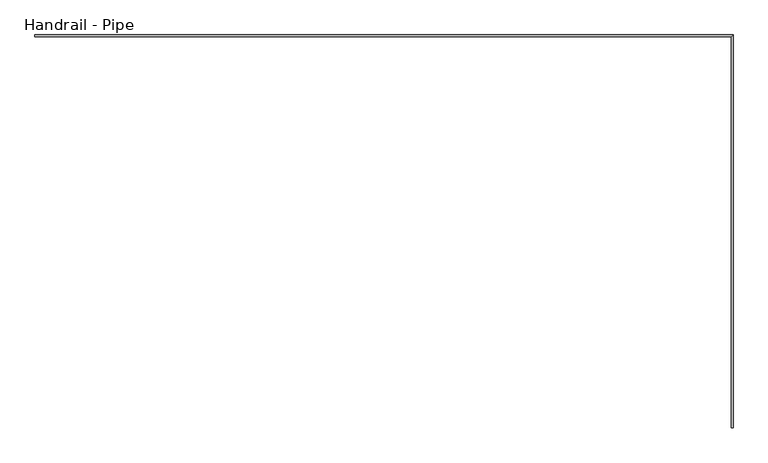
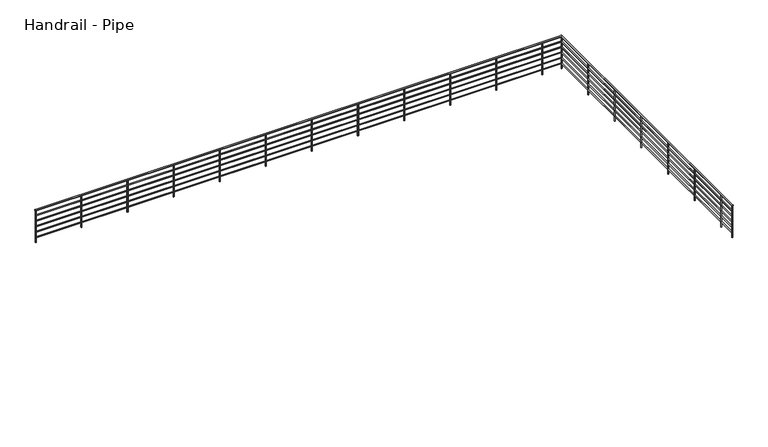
"""IFC4 building model written with IfcOpenShell, lengths in millimetres: railing geometry, Handrail - Pipe."""

from ifc_helpers import new_model, si_unit, point, frame, frame_2d, origin, place, context, project, spatial, circle_curve, ellipse_curve, trimmed, segment, composite_curve, outline, extrude, source, transform, mapped, element, save
from ifc_brep_helpers import plane_surface, cylinder_surface, advanced_brep


def handrail_pipe_d2b3d8b8(model_context):
    return source(origin(), model_context, "Body", "SolidModel", [
        advanced_brep(
        [(-11622.0589563, 11963.8816867, 10039.35), (-11622.0589563, 11925.7816867, 10039.35), (2316.1910437, 4121.6316867, 10039.35), (2278.0910437, 4121.6316867, 10039.35), (2316.1910437, 11963.8816867, 10039.35), (2278.0910437, 11925.7816867, 10039.35)],
        [
            (0, 1, circle_curve(frame((-11622.0589563, 11944.8316867, 10039.35), z_axis=(-1.0, 0.0, 0.0), x_axis=(0.0, -1.0, 0.0)), 19.05)),
            (1, 0, circle_curve(frame((-11622.0589563, 11944.8316867, 10039.35), z_axis=(-1.0, 0.0, 0.0), x_axis=(0.0, -1.0, 0.0)), 19.05)),
            (2, 3, circle_curve(frame((2297.1410437, 4121.6316867, 10039.35), z_axis=(0.0, -1.0, 0.0), x_axis=(-1.0, 0.0, 0.0)), 19.05)),
            (3, 2, circle_curve(frame((2297.1410437, 4121.6316867, 10039.35), z_axis=(0.0, -1.0, 0.0), x_axis=(-1.0, 0.0, 0.0)), 19.05)),
            (0, 4),
            (4, 5, ellipse_curve(frame((2297.1410437, 11944.8316867, 10039.35), z_axis=(-0.7071067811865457, 0.7071067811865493, 0.0), x_axis=(-0.7071067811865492, -0.7071067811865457, 0.0)), 26.9407684, 19.05)),
            (5, 1),
            (5, 4, ellipse_curve(frame((2297.1410437, 11944.8316867, 10039.35), z_axis=(-0.7071067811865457, 0.7071067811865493, 0.0), x_axis=(-0.7071067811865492, -0.7071067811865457, 0.0)), 26.9407684, 19.05)),
            (4, 2),
            (3, 5),
        ],
        [
            plane_surface(frame((-11622.0589563, 11944.8316867, 10058.4), z_axis=(-1.0, 0.0, 0.0), x_axis=(0.0, 1.0, 0.0))),
            plane_surface(frame((2297.1410437, 4121.6316867, 10058.4), z_axis=(0.0, -1.0, 0.0), x_axis=(0.0, 0.0, -1.0))),
            cylinder_surface(frame((-11622.0589563, 11944.8316867, 10039.35), z_axis=(-1.0, 0.0, 0.0), x_axis=(0.0, -1.0, 0.0)), 19.05),
            cylinder_surface(frame((2297.1410437, 11944.8316867, 10039.35), z_axis=(0.0, 1.0, 0.0), x_axis=(-1.0, 0.0, 0.0)), 19.05),
        ],
        [
            (0, [[1, 2]]),
            (1, [[3, 4]]),
            (2, [[-1, 5, 6, 7]]),
            (2, [[-2, -7, 8, -5]]),
            (3, [[-6, 9, -4, 10]]),
            (3, [[-8, -10, -3, -9]]),
        ],
    ),
        advanced_brep(
        [(-11622.0589563, 11957.5316867, 9893.3), (-11622.0589563, 11932.1316867, 9893.3), (2309.8410437, 11957.5316867, 9893.3), (2284.4410437, 11932.1316867, 9893.3), (2309.8410437, 4121.6316867, 9893.3), (2284.4410437, 4121.6316867, 9893.3)],
        [
            (0, 1, circle_curve(frame((-11622.0589563, 11944.8316867, 9893.3), z_axis=(-1.0, 0.0, 0.0), x_axis=(0.0, -1.0, 0.0)), 12.7)),
            (1, 0, circle_curve(frame((-11622.0589563, 11944.8316867, 9893.3), z_axis=(-1.0, 0.0, 0.0), x_axis=(0.0, -1.0, 0.0)), 12.7)),
            (0, 2),
            (2, 3, ellipse_curve(frame((2297.1410437, 11944.8316867, 9893.3), z_axis=(-0.7071067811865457, 0.7071067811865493, 0.0), x_axis=(-0.7071067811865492, -0.7071067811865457, 0.0)), 17.9605122, 12.7)),
            (3, 1),
            (3, 2, ellipse_curve(frame((2297.1410437, 11944.8316867, 9893.3), z_axis=(-0.7071067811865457, 0.7071067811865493, 0.0), x_axis=(-0.7071067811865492, -0.7071067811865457, 0.0)), 17.9605122, 12.7)),
            (4, 5, circle_curve(frame((2297.1410437, 4121.6316867, 9893.3), z_axis=(0.0, -1.0, 0.0), x_axis=(-1.0, 0.0, 0.0)), 12.7)),
            (5, 4, circle_curve(frame((2297.1410437, 4121.6316867, 9893.3), z_axis=(0.0, -1.0, 0.0), x_axis=(-1.0, 0.0, 0.0)), 12.7)),
            (2, 4),
            (5, 3),
        ],
        [
            plane_surface(frame((-11622.0589563, 11944.8316867, 9906.0), z_axis=(-1.0, 0.0, 0.0), x_axis=(0.0, 1.0, 0.0))),
            cylinder_surface(frame((-11622.0589563, 11944.8316867, 9893.3), z_axis=(-1.0, 0.0, 0.0), x_axis=(0.0, -1.0, 0.0)), 12.7),
            plane_surface(frame((2297.1410437, 4121.6316867, 9906.0), z_axis=(0.0, -1.0, 0.0), x_axis=(0.0, 0.0, -1.0))),
            cylinder_surface(frame((2297.1410437, 11944.8316867, 9893.3), z_axis=(0.0, 1.0, 0.0), x_axis=(-1.0, 0.0, 0.0)), 12.7),
        ],
        [
            (0, [[1, 2]]),
            (1, [[-1, 3, 4, 5]]),
            (1, [[-2, -5, 6, -3]]),
            (2, [[7, 8]]),
            (3, [[-4, 9, -8, 10]]),
            (3, [[-6, -10, -7, -9]]),
        ],
    ),
        advanced_brep(
        [(-11622.0589563, 11957.5316867, 9740.9), (-11622.0589563, 11932.1316867, 9740.9), (2309.8410437, 11957.5316867, 9740.9), (2284.4410437, 11932.1316867, 9740.9), (2309.8410437, 4121.6316867, 9740.9), (2284.4410437, 4121.6316867, 9740.9)],
        [
            (0, 1, circle_curve(frame((-11622.0589563, 11944.8316867, 9740.9), z_axis=(-1.0, 0.0, 0.0), x_axis=(0.0, -1.0, 0.0)), 12.7)),
            (1, 0, circle_curve(frame((-11622.0589563, 11944.8316867, 9740.9), z_axis=(-1.0, 0.0, 0.0), x_axis=(0.0, -1.0, 0.0)), 12.7)),
            (0, 2),
            (2, 3, ellipse_curve(frame((2297.1410437, 11944.8316867, 9740.9), z_axis=(-0.7071067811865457, 0.7071067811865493, 0.0), x_axis=(-0.7071067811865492, -0.7071067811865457, 0.0)), 17.9605122, 12.7)),
            (3, 1),
            (3, 2, ellipse_curve(frame((2297.1410437, 11944.8316867, 9740.9), z_axis=(-0.7071067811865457, 0.7071067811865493, 0.0), x_axis=(-0.7071067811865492, -0.7071067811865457, 0.0)), 17.9605122, 12.7)),
            (4, 5, circle_curve(frame((2297.1410437, 4121.6316867, 9740.9), z_axis=(0.0, -1.0, 0.0), x_axis=(-1.0, 0.0, 0.0)), 12.7)),
            (5, 4, circle_curve(frame((2297.1410437, 4121.6316867, 9740.9), z_axis=(0.0, -1.0, 0.0), x_axis=(-1.0, 0.0, 0.0)), 12.7)),
            (2, 4),
            (5, 3),
        ],
        [
            plane_surface(frame((-11622.0589563, 11944.8316867, 9753.6), z_axis=(-1.0, 0.0, 0.0), x_axis=(0.0, 1.0, 0.0))),
            cylinder_surface(frame((-11622.0589563, 11944.8316867, 9740.9), z_axis=(-1.0, 0.0, 0.0), x_axis=(0.0, -1.0, 0.0)), 12.7),
            plane_surface(frame((2297.1410437, 4121.6316867, 9753.6), z_axis=(0.0, -1.0, 0.0), x_axis=(0.0, 0.0, -1.0))),
            cylinder_surface(frame((2297.1410437, 11944.8316867, 9740.9), z_axis=(0.0, 1.0, 0.0), x_axis=(-1.0, 0.0, 0.0)), 12.7),
        ],
        [
            (0, [[1, 2]]),
            (1, [[-1, 3, 4, 5]]),
            (1, [[-2, -5, 6, -3]]),
            (2, [[7, 8]]),
            (3, [[-4, 9, -8, 10]]),
            (3, [[-6, -10, -7, -9]]),
        ],
    ),
        advanced_brep(
        [(-11622.0589563, 11957.5316867, 9588.5), (-11622.0589563, 11932.1316867, 9588.5), (2309.8410437, 11957.5316867, 9588.5), (2284.4410437, 11932.1316867, 9588.5), (2309.8410437, 4121.6316867, 9588.5), (2284.4410437, 4121.6316867, 9588.5)],
        [
            (0, 1, circle_curve(frame((-11622.0589563, 11944.8316867, 9588.5), z_axis=(-1.0, 0.0, 0.0), x_axis=(0.0, -1.0, 0.0)), 12.7)),
            (1, 0, circle_curve(frame((-11622.0589563, 11944.8316867, 9588.5), z_axis=(-1.0, 0.0, 0.0), x_axis=(0.0, -1.0, 0.0)), 12.7)),
            (0, 2),
            (2, 3, ellipse_curve(frame((2297.1410437, 11944.8316867, 9588.5), z_axis=(-0.7071067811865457, 0.7071067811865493, 0.0), x_axis=(-0.7071067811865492, -0.7071067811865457, 0.0)), 17.9605122, 12.7)),
            (3, 1),
            (3, 2, ellipse_curve(frame((2297.1410437, 11944.8316867, 9588.5), z_axis=(-0.7071067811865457, 0.7071067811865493, 0.0), x_axis=(-0.7071067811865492, -0.7071067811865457, 0.0)), 17.9605122, 12.7)),
            (4, 5, circle_curve(frame((2297.1410437, 4121.6316867, 9588.5), z_axis=(0.0, -1.0, 0.0), x_axis=(-1.0, 0.0, 0.0)), 12.7)),
            (5, 4, circle_curve(frame((2297.1410437, 4121.6316867, 9588.5), z_axis=(0.0, -1.0, 0.0), x_axis=(-1.0, 0.0, 0.0)), 12.7)),
            (2, 4),
            (5, 3),
        ],
        [
            plane_surface(frame((-11622.0589563, 11944.8316867, 9601.2), z_axis=(-1.0, 0.0, 0.0), x_axis=(0.0, 1.0, 0.0))),
            cylinder_surface(frame((-11622.0589563, 11944.8316867, 9588.5), z_axis=(-1.0, 0.0, 0.0), x_axis=(0.0, -1.0, 0.0)), 12.7),
            plane_surface(frame((2297.1410437, 4121.6316867, 9601.2), z_axis=(0.0, -1.0, 0.0), x_axis=(0.0, 0.0, -1.0))),
            cylinder_surface(frame((2297.1410437, 11944.8316867, 9588.5), z_axis=(0.0, 1.0, 0.0), x_axis=(-1.0, 0.0, 0.0)), 12.7),
        ],
        [
            (0, [[1, 2]]),
            (1, [[-1, 3, 4, 5]]),
            (1, [[-2, -5, 6, -3]]),
            (2, [[7, 8]]),
            (3, [[-4, 9, -8, 10]]),
            (3, [[-6, -10, -7, -9]]),
        ],
    ),
        advanced_brep(
        [(-11622.0589563, 11957.5316867, 9436.1), (-11622.0589563, 11932.1316867, 9436.1), (2309.8410437, 11957.5316867, 9436.1), (2284.4410437, 11932.1316867, 9436.1), (2309.8410437, 4121.6316867, 9436.1), (2284.4410437, 4121.6316867, 9436.1)],
        [
            (0, 1, circle_curve(frame((-11622.0589563, 11944.8316867, 9436.1), z_axis=(-1.0, 0.0, 0.0), x_axis=(0.0, -1.0, 0.0)), 12.7)),
            (1, 0, circle_curve(frame((-11622.0589563, 11944.8316867, 9436.1), z_axis=(-1.0, 0.0, 0.0), x_axis=(0.0, -1.0, 0.0)), 12.7)),
            (0, 2),
            (2, 3, ellipse_curve(frame((2297.1410437, 11944.8316867, 9436.1), z_axis=(-0.7071067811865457, 0.7071067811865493, 0.0), x_axis=(-0.7071067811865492, -0.7071067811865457, 0.0)), 17.9605122, 12.7)),
            (3, 1),
            (3, 2, ellipse_curve(frame((2297.1410437, 11944.8316867, 9436.1), z_axis=(-0.7071067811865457, 0.7071067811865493, 0.0), x_axis=(-0.7071067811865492, -0.7071067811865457, 0.0)), 17.9605122, 12.7)),
            (4, 5, circle_curve(frame((2297.1410437, 4121.6316867, 9436.1), z_axis=(0.0, -1.0, 0.0), x_axis=(-1.0, 0.0, 0.0)), 12.7)),
            (5, 4, circle_curve(frame((2297.1410437, 4121.6316867, 9436.1), z_axis=(0.0, -1.0, 0.0), x_axis=(-1.0, 0.0, 0.0)), 12.7)),
            (2, 4),
            (5, 3),
        ],
        [
            plane_surface(frame((-11622.0589563, 11944.8316867, 9448.8), z_axis=(-1.0, 0.0, 0.0), x_axis=(0.0, 1.0, 0.0))),
            cylinder_surface(frame((-11622.0589563, 11944.8316867, 9436.1), z_axis=(-1.0, 0.0, 0.0), x_axis=(0.0, -1.0, 0.0)), 12.7),
            plane_surface(frame((2297.1410437, 4121.6316867, 9448.8), z_axis=(0.0, -1.0, 0.0), x_axis=(0.0, 0.0, -1.0))),
            cylinder_surface(frame((2297.1410437, 11944.8316867, 9436.1), z_axis=(0.0, 1.0, 0.0), x_axis=(-1.0, 0.0, 0.0)), 12.7),
        ],
        [
            (0, [[1, 2]]),
            (1, [[-1, 3, 4, 5]]),
            (1, [[-2, -5, 6, -3]]),
            (2, [[7, 8]]),
            (3, [[-4, 9, -8, 10]]),
            (3, [[-6, -10, -7, -9]]),
        ],
    ),
        advanced_brep(
        [(-11622.0589563, 11957.5316867, 9283.7), (-11622.0589563, 11932.1316867, 9283.7), (2309.8410437, 11957.5316867, 9283.7), (2284.4410437, 11932.1316867, 9283.7), (2309.8410437, 4121.6316867, 9283.7), (2284.4410437, 4121.6316867, 9283.7)],
        [
            (0, 1, circle_curve(frame((-11622.0589563, 11944.8316867, 9283.7), z_axis=(-1.0, 0.0, 0.0), x_axis=(0.0, -1.0, 0.0)), 12.7)),
            (1, 0, circle_curve(frame((-11622.0589563, 11944.8316867, 9283.7), z_axis=(-1.0, 0.0, 0.0), x_axis=(0.0, -1.0, 0.0)), 12.7)),
            (0, 2),
            (2, 3, ellipse_curve(frame((2297.1410437, 11944.8316867, 9283.7), z_axis=(-0.7071067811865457, 0.7071067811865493, 0.0), x_axis=(-0.7071067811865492, -0.7071067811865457, 0.0)), 17.9605122, 12.7)),
            (3, 1),
            (3, 2, ellipse_curve(frame((2297.1410437, 11944.8316867, 9283.7), z_axis=(-0.7071067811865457, 0.7071067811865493, 0.0), x_axis=(-0.7071067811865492, -0.7071067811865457, 0.0)), 17.9605122, 12.7)),
            (4, 5, circle_curve(frame((2297.1410437, 4121.6316867, 9283.7), z_axis=(0.0, -1.0, 0.0), x_axis=(-1.0, 0.0, 0.0)), 12.7)),
            (5, 4, circle_curve(frame((2297.1410437, 4121.6316867, 9283.7), z_axis=(0.0, -1.0, 0.0), x_axis=(-1.0, 0.0, 0.0)), 12.7)),
            (2, 4),
            (5, 3),
        ],
        [
            plane_surface(frame((-11622.0589563, 11944.8316867, 9296.4), z_axis=(-1.0, 0.0, 0.0), x_axis=(0.0, 1.0, 0.0))),
            cylinder_surface(frame((-11622.0589563, 11944.8316867, 9283.7), z_axis=(-1.0, 0.0, 0.0), x_axis=(0.0, -1.0, 0.0)), 12.7),
            plane_surface(frame((2297.1410437, 4121.6316867, 9296.4), z_axis=(0.0, -1.0, 0.0), x_axis=(0.0, 0.0, -1.0))),
            cylinder_surface(frame((2297.1410437, 11944.8316867, 9283.7), z_axis=(0.0, 1.0, 0.0), x_axis=(-1.0, 0.0, 0.0)), 12.7),
        ],
        [
            (0, [[1, 2]]),
            (1, [[-1, 3, 4, 5]]),
            (1, [[-2, -5, 6, -3]]),
            (2, [[7, 8]]),
            (3, [[-4, 9, -8, 10]]),
            (3, [[-6, -10, -7, -9]]),
        ],
    ),
        extrude(outline(composite_curve([segment(trimmed(circle_curve(frame_2d((2297.1410437, 4629.6316867)), 12.7), [point((2309.8410437, 4629.6316867))], [point((2284.4410437, 4629.6316867))], False, "CARTESIAN"), True, "CONTINUOUS"), segment(trimmed(circle_curve(frame_2d((2297.1410437, 4629.6316867)), 12.7), [point((2284.4410437, 4629.6316867))], [point((2309.8410437, 4629.6316867))], False, "CARTESIAN"), True, "CONTINUOUS")], self_intersect=False)), frame((0.0, 0.0, 9144.0), z_axis=(0.0, 0.0, 1.0), x_axis=(1.0, 0.0, 0.0)), (0.0, 0.0, 1.0), 876.3),
        extrude(outline(composite_curve([segment(trimmed(circle_curve(frame_2d((2297.1410437, 5848.8316867)), 12.7), [point((2309.8410437, 5848.8316867))], [point((2284.4410437, 5848.8316867))], False, "CARTESIAN"), True, "CONTINUOUS"), segment(trimmed(circle_curve(frame_2d((2297.1410437, 5848.8316867)), 12.7), [point((2284.4410437, 5848.8316867))], [point((2309.8410437, 5848.8316867))], False, "CARTESIAN"), True, "CONTINUOUS")], self_intersect=False)), frame((0.0, 0.0, 9144.0), z_axis=(0.0, 0.0, 1.0), x_axis=(1.0, 0.0, 0.0)), (0.0, 0.0, 1.0), 876.3),
        extrude(outline(composite_curve([segment(trimmed(circle_curve(frame_2d((2297.1410437, 7068.0316867)), 12.7), [point((2309.8410437, 7068.0316867))], [point((2284.4410437, 7068.0316867))], False, "CARTESIAN"), True, "CONTINUOUS"), segment(trimmed(circle_curve(frame_2d((2297.1410437, 7068.0316867)), 12.7), [point((2284.4410437, 7068.0316867))], [point((2309.8410437, 7068.0316867))], False, "CARTESIAN"), True, "CONTINUOUS")], self_intersect=False)), frame((0.0, 0.0, 9144.0), z_axis=(0.0, 0.0, 1.0), x_axis=(1.0, 0.0, 0.0)), (0.0, 0.0, 1.0), 876.3),
        extrude(outline(composite_curve([segment(trimmed(circle_curve(frame_2d((2297.1410437, 8287.2316867)), 12.7), [point((2309.8410437, 8287.2316867))], [point((2284.4410437, 8287.2316867))], False, "CARTESIAN"), True, "CONTINUOUS"), segment(trimmed(circle_curve(frame_2d((2297.1410437, 8287.2316867)), 12.7), [point((2284.4410437, 8287.2316867))], [point((2309.8410437, 8287.2316867))], False, "CARTESIAN"), True, "CONTINUOUS")], self_intersect=False)), frame((0.0, 0.0, 9144.0), z_axis=(0.0, 0.0, 1.0), x_axis=(1.0, 0.0, 0.0)), (0.0, 0.0, 1.0), 876.3),
        extrude(outline(composite_curve([segment(trimmed(circle_curve(frame_2d((2297.1410437, 9506.4316867)), 12.7), [point((2309.8410437, 9506.4316867))], [point((2284.4410437, 9506.4316867))], False, "CARTESIAN"), True, "CONTINUOUS"), segment(trimmed(circle_curve(frame_2d((2297.1410437, 9506.4316867)), 12.7), [point((2284.4410437, 9506.4316867))], [point((2309.8410437, 9506.4316867))], False, "CARTESIAN"), True, "CONTINUOUS")], self_intersect=False)), frame((0.0, 0.0, 9144.0), z_axis=(0.0, 0.0, 1.0), x_axis=(1.0, 0.0, 0.0)), (0.0, 0.0, 1.0), 876.3),
        extrude(outline(composite_curve([segment(trimmed(circle_curve(frame_2d((2297.1410437, 10725.6316867)), 12.7), [point((2309.8410437, 10725.6316867))], [point((2284.4410437, 10725.6316867))], False, "CARTESIAN"), True, "CONTINUOUS"), segment(trimmed(circle_curve(frame_2d((2297.1410437, 10725.6316867)), 12.7), [point((2284.4410437, 10725.6316867))], [point((2309.8410437, 10725.6316867))], False, "CARTESIAN"), True, "CONTINUOUS")], self_intersect=False)), frame((0.0, 0.0, 9144.0), z_axis=(0.0, 0.0, 1.0), x_axis=(1.0, 0.0, 0.0)), (0.0, 0.0, 1.0), 876.3),
        extrude(outline(composite_curve([segment(trimmed(circle_curve(frame_2d((1789.1410437, 11944.8316867)), 12.7), [point((1789.1410437, 11957.5316867))], [point((1789.1410437, 11932.1316867))], False, "CARTESIAN"), True, "CONTINUOUS"), segment(trimmed(circle_curve(frame_2d((1789.1410437, 11944.8316867)), 12.7), [point((1789.1410437, 11932.1316867))], [point((1789.1410437, 11957.5316867))], False, "CARTESIAN"), True, "CONTINUOUS")], self_intersect=False)), frame((0.0, 0.0, 9144.0), z_axis=(0.0, 0.0, 1.0), x_axis=(1.0, 0.0, 0.0)), (0.0, 0.0, 1.0), 876.3),
        extrude(outline(composite_curve([segment(trimmed(circle_curve(frame_2d((569.9410437, 11944.8316867)), 12.7), [point((569.9410437, 11957.5316867))], [point((569.9410437, 11932.1316867))], False, "CARTESIAN"), True, "CONTINUOUS"), segment(trimmed(circle_curve(frame_2d((569.9410437, 11944.8316867)), 12.7), [point((569.9410437, 11932.1316867))], [point((569.9410437, 11957.5316867))], False, "CARTESIAN"), True, "CONTINUOUS")], self_intersect=False)), frame((0.0, 0.0, 9144.0), z_axis=(0.0, 0.0, 1.0), x_axis=(1.0, 0.0, 0.0)), (0.0, 0.0, 1.0), 876.3),
        extrude(outline(composite_curve([segment(trimmed(circle_curve(frame_2d((-649.2589563, 11944.8316867)), 12.7), [point((-649.2589563, 11957.5316867))], [point((-649.2589563, 11932.1316867))], False, "CARTESIAN"), True, "CONTINUOUS"), segment(trimmed(circle_curve(frame_2d((-649.2589563, 11944.8316867)), 12.7), [point((-649.2589563, 11932.1316867))], [point((-649.2589563, 11957.5316867))], False, "CARTESIAN"), True, "CONTINUOUS")], self_intersect=False)), frame((0.0, 0.0, 9144.0), z_axis=(0.0, 0.0, 1.0), x_axis=(1.0, 0.0, 0.0)), (0.0, 0.0, 1.0), 876.3),
        extrude(outline(composite_curve([segment(trimmed(circle_curve(frame_2d((-1868.4589563, 11944.8316867)), 12.7), [point((-1868.4589563, 11957.5316867))], [point((-1868.4589563, 11932.1316867))], False, "CARTESIAN"), True, "CONTINUOUS"), segment(trimmed(circle_curve(frame_2d((-1868.4589563, 11944.8316867)), 12.7), [point((-1868.4589563, 11932.1316867))], [point((-1868.4589563, 11957.5316867))], False, "CARTESIAN"), True, "CONTINUOUS")], self_intersect=False)), frame((0.0, 0.0, 9144.0), z_axis=(0.0, 0.0, 1.0), x_axis=(1.0, 0.0, 0.0)), (0.0, 0.0, 1.0), 876.3),
        extrude(outline(composite_curve([segment(trimmed(circle_curve(frame_2d((-3087.6589563, 11944.8316867)), 12.7), [point((-3087.6589563, 11957.5316867))], [point((-3087.6589563, 11932.1316867))], False, "CARTESIAN"), True, "CONTINUOUS"), segment(trimmed(circle_curve(frame_2d((-3087.6589563, 11944.8316867)), 12.7), [point((-3087.6589563, 11932.1316867))], [point((-3087.6589563, 11957.5316867))], False, "CARTESIAN"), True, "CONTINUOUS")], self_intersect=False)), frame((0.0, 0.0, 9144.0), z_axis=(0.0, 0.0, 1.0), x_axis=(1.0, 0.0, 0.0)), (0.0, 0.0, 1.0), 876.3),
        extrude(outline(composite_curve([segment(trimmed(circle_curve(frame_2d((-4306.8589563, 11944.8316867)), 12.7), [point((-4306.8589563, 11957.5316867))], [point((-4306.8589563, 11932.1316867))], False, "CARTESIAN"), True, "CONTINUOUS"), segment(trimmed(circle_curve(frame_2d((-4306.8589563, 11944.8316867)), 12.7), [point((-4306.8589563, 11932.1316867))], [point((-4306.8589563, 11957.5316867))], False, "CARTESIAN"), True, "CONTINUOUS")], self_intersect=False)), frame((0.0, 0.0, 9144.0), z_axis=(0.0, 0.0, 1.0), x_axis=(1.0, 0.0, 0.0)), (0.0, 0.0, 1.0), 876.3),
        extrude(outline(composite_curve([segment(trimmed(circle_curve(frame_2d((-5526.0589563, 11944.8316867)), 12.7), [point((-5526.0589563, 11957.5316867))], [point((-5526.0589563, 11932.1316867))], False, "CARTESIAN"), True, "CONTINUOUS"), segment(trimmed(circle_curve(frame_2d((-5526.0589563, 11944.8316867)), 12.7), [point((-5526.0589563, 11932.1316867))], [point((-5526.0589563, 11957.5316867))], False, "CARTESIAN"), True, "CONTINUOUS")], self_intersect=False)), frame((0.0, 0.0, 9144.0), z_axis=(0.0, 0.0, 1.0), x_axis=(1.0, 0.0, 0.0)), (0.0, 0.0, 1.0), 876.3),
        extrude(outline(composite_curve([segment(trimmed(circle_curve(frame_2d((-6745.2589563, 11944.8316867)), 12.7), [point((-6745.2589563, 11957.5316867))], [point((-6745.2589563, 11932.1316867))], False, "CARTESIAN"), True, "CONTINUOUS"), segment(trimmed(circle_curve(frame_2d((-6745.2589563, 11944.8316867)), 12.7), [point((-6745.2589563, 11932.1316867))], [point((-6745.2589563, 11957.5316867))], False, "CARTESIAN"), True, "CONTINUOUS")], self_intersect=False)), frame((0.0, 0.0, 9144.0), z_axis=(0.0, 0.0, 1.0), x_axis=(1.0, 0.0, 0.0)), (0.0, 0.0, 1.0), 876.3),
        extrude(outline(composite_curve([segment(trimmed(circle_curve(frame_2d((-7964.4589563, 11944.8316867)), 12.7), [point((-7964.4589563, 11957.5316867))], [point((-7964.4589563, 11932.1316867))], False, "CARTESIAN"), True, "CONTINUOUS"), segment(trimmed(circle_curve(frame_2d((-7964.4589563, 11944.8316867)), 12.7), [point((-7964.4589563, 11932.1316867))], [point((-7964.4589563, 11957.5316867))], False, "CARTESIAN"), True, "CONTINUOUS")], self_intersect=False)), frame((0.0, 0.0, 9144.0), z_axis=(0.0, 0.0, 1.0), x_axis=(1.0, 0.0, 0.0)), (0.0, 0.0, 1.0), 876.3),
        extrude(outline(composite_curve([segment(trimmed(circle_curve(frame_2d((-9183.6589563, 11944.8316867)), 12.7), [point((-9183.6589563, 11957.5316867))], [point((-9183.6589563, 11932.1316867))], False, "CARTESIAN"), True, "CONTINUOUS"), segment(trimmed(circle_curve(frame_2d((-9183.6589563, 11944.8316867)), 12.7), [point((-9183.6589563, 11932.1316867))], [point((-9183.6589563, 11957.5316867))], False, "CARTESIAN"), True, "CONTINUOUS")], self_intersect=False)), frame((0.0, 0.0, 9144.0), z_axis=(0.0, 0.0, 1.0), x_axis=(1.0, 0.0, 0.0)), (0.0, 0.0, 1.0), 876.3),
        extrude(outline(composite_curve([segment(trimmed(circle_curve(frame_2d((-10402.8589563, 11944.8316867)), 12.7), [point((-10402.8589563, 11957.5316867))], [point((-10402.8589563, 11932.1316867))], False, "CARTESIAN"), True, "CONTINUOUS"), segment(trimmed(circle_curve(frame_2d((-10402.8589563, 11944.8316867)), 12.7), [point((-10402.8589563, 11932.1316867))], [point((-10402.8589563, 11957.5316867))], False, "CARTESIAN"), True, "CONTINUOUS")], self_intersect=False)), frame((0.0, 0.0, 9144.0), z_axis=(0.0, 0.0, 1.0), x_axis=(1.0, 0.0, 0.0)), (0.0, 0.0, 1.0), 876.3),
        extrude(outline(composite_curve([segment(trimmed(circle_curve(frame_2d((2297.1410437, 11944.8316867)), 12.7), [point((2297.1410437, 11957.5316867))], [point((2297.1410437, 11932.1316867))], False, "CARTESIAN"), True, "CONTINUOUS"), segment(trimmed(circle_curve(frame_2d((2297.1410437, 11944.8316867)), 12.7), [point((2297.1410437, 11932.1316867))], [point((2297.1410437, 11957.5316867))], False, "CARTESIAN"), True, "CONTINUOUS")], self_intersect=False)), frame((0.0, 0.0, 9144.0), z_axis=(0.0, 0.0, 1.0), x_axis=(1.0, 0.0, 0.0)), (0.0, 0.0, 1.0), 876.3),
        extrude(outline(composite_curve([segment(trimmed(circle_curve(frame_2d((2297.1410437, 4134.3316867)), 12.7), [point((2309.8410437, 4134.3316867))], [point((2284.4410437, 4134.3316867))], False, "CARTESIAN"), True, "CONTINUOUS"), segment(trimmed(circle_curve(frame_2d((2297.1410437, 4134.3316867)), 12.7), [point((2284.4410437, 4134.3316867))], [point((2309.8410437, 4134.3316867))], False, "CARTESIAN"), True, "CONTINUOUS")], self_intersect=False)), frame((0.0, 0.0, 9144.0), z_axis=(0.0, 0.0, 1.0), x_axis=(1.0, 0.0, 0.0)), (0.0, 0.0, 1.0), 876.3),
        extrude(outline(composite_curve([segment(trimmed(circle_curve(frame_2d((-11609.3589563, 11944.8316867)), 12.7), [point((-11609.3589563, 11957.5316867))], [point((-11609.3589563, 11932.1316867))], False, "CARTESIAN"), True, "CONTINUOUS"), segment(trimmed(circle_curve(frame_2d((-11609.3589563, 11944.8316867)), 12.7), [point((-11609.3589563, 11932.1316867))], [point((-11609.3589563, 11957.5316867))], False, "CARTESIAN"), True, "CONTINUOUS")], self_intersect=False)), frame((0.0, 0.0, 9144.0), z_axis=(0.0, 0.0, 1.0), x_axis=(1.0, 0.0, 0.0)), (0.0, 0.0, 1.0), 876.3),
    ])


if __name__ == "__main__":
    model = new_model("IFC4")
    model_context = context("Model", 3, world=origin())
    ifc_project = project(units=[si_unit("LENGTHUNIT", "METRE", prefix="MILLI")], contexts=[model_context])
    site = spatial("IfcSite", under=ifc_project)
    building = spatial("IfcBuilding", under=site)
    placement = place(None, origin())
    handrail_pipe_shape = handrail_pipe_d2b3d8b8(model_context)
    element("IfcRailing", 1, ObjectType="Handrail - Pipe", at=placement, inside=building, context=model_context, shape_type="MappedRepresentation", body=[
        mapped(handrail_pipe_shape, transform((0.0, 0.0, 0.0), x_axis=(1.0, 0.0, 0.0), y_axis=(0.0, 1.0, 0.0), z_axis=(0.0, 0.0, 1.0))),
    ])
    save(model, "model.ifc")
